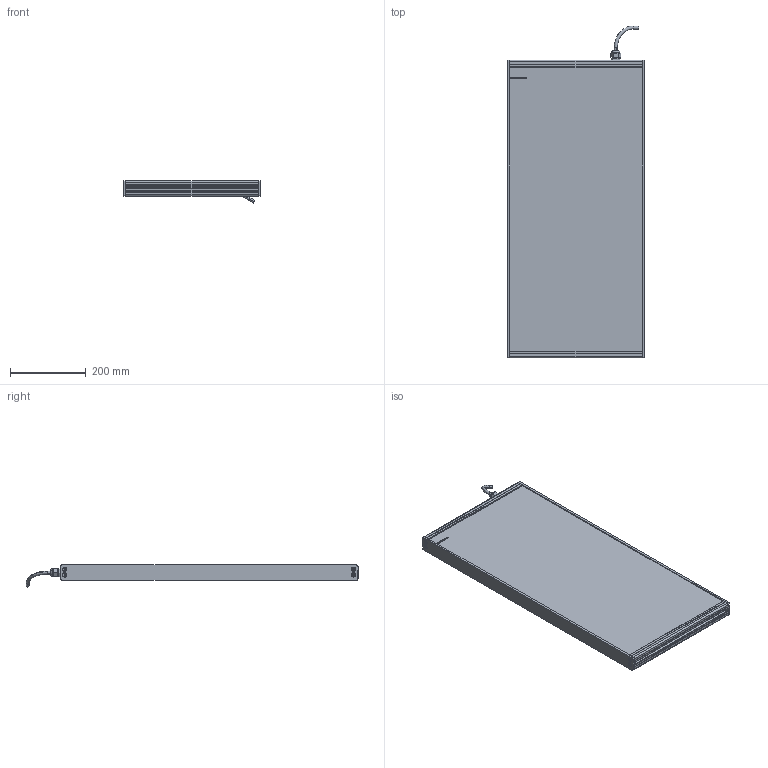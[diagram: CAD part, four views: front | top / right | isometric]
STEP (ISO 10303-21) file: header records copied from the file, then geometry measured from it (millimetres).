
FILE_DESCRIPTION (( 'STEP AP214' ), '1' );
FILE_NAME ('EFFI-BL-350T-750-1M12P.STEP', '2021-06-28T09:57:27', ( '' ), ( '' ), 'SwSTEP 2.0', 'SolidWorks 2021', '' );
FILE_SCHEMA (( 'AUTOMOTIVE_DESIGN' ));
Length unit declared in the file: millimetre
Products named in the file (7): bord fin modif_lg 436.5 mm; 003776; profile modif_lg 99.5 mm; M12 power; Pièce2^EFFI-BL-XXXT-YYY + M12P; EFFI-BL-350T-750-1M12P
Assembly tree (14 placements, depth 2):
  EFFI-BL-350T-750-1M12P
    profile modif_lg 99.5 mm
    bord fin modif_lg 436.5 mm  x2
    Pièce2^EFFI-BL-XXXT-YYY + M12P
    profile modif_lg 99.5 mm
    M12 power
    003776  x8
Bounding box: 360 x 876.45 x 58.14 mm (x, y, z)
Volume: 9794224.5 mm3; surface area: 854628.8 mm2
Topology: 13 solids, 16 shells, 569 faces, 1446 edges, 927 vertices
Faces by surface type: plane 327, bspline 125, cylinder 95, cone 18, torus 4
Entity records: 15286 total; most frequent: CARTESIAN_POINT 5076, ORIENTED_EDGE 2024, DIRECTION 1720, EDGE_CURVE 1014, VECTOR 756, LINE 756, VERTEX_POINT 670, AXIS2_PLACEMENT_3D 482
